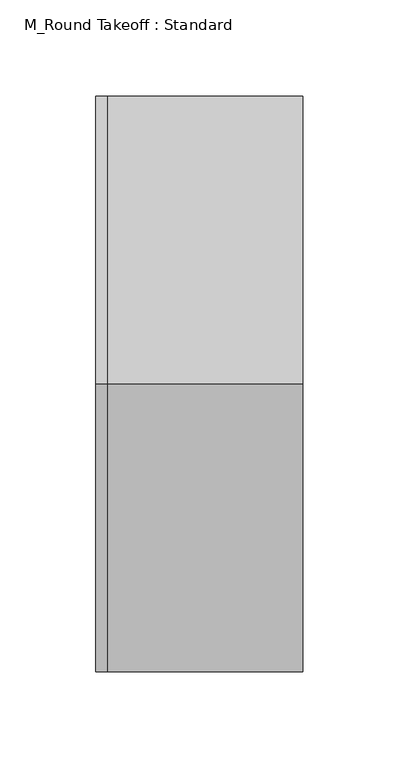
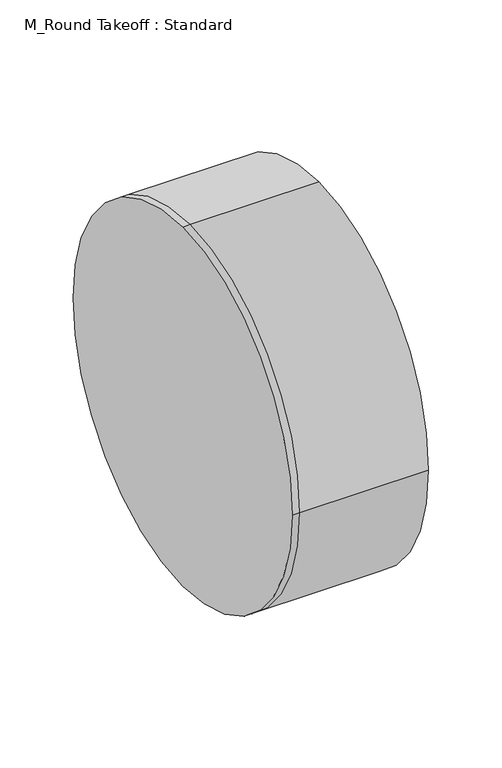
"""IFC4 building model written with IfcOpenShell, lengths in millimetres: duct fitting geometry, M_Round Takeoff : Standard."""

from ifc_helpers import new_model, si_unit, frame, origin, place, context, project, spatial, circle_curve, source, transform, mapped, element, save
from ifc_brep_helpers import plane_surface, cylinder_surface, advanced_brep


def m_round_takeoff_standard_603b0510(model_context):
    return source(origin(), model_context, "Body", "AdvancedBrep", [
        advanced_brep(
        [(101.6, 0.0, 150.0), (101.6, -150.0, 0.0), (101.6, 0.0, -150.0), (101.6, 150.0, 0.0), (0.0, 150.0, 0.0), (0.0, 0.0, 150.0), (0.0, 0.0, -150.0), (0.0, -150.0, 0.0), (-6.096, 0.0, 150.0), (-6.096, 150.0, 0.0), (-6.096, 0.0, -150.0), (-6.096, -150.0, 0.0)],
        [
            (0, 1, circle_curve(frame((101.6, 0.0, 0.0), z_axis=(1.0, 0.0, 0.0), x_axis=(0.0, 1.0, 0.0)), 150.0)),
            (1, 2, circle_curve(frame((101.6, 0.0, 0.0), z_axis=(1.0, 0.0, 0.0), x_axis=(0.0, 1.0, 0.0)), 150.0)),
            (2, 3, circle_curve(frame((101.6, 0.0, 0.0), z_axis=(1.0, 0.0, 0.0), x_axis=(0.0, 1.0, 0.0)), 150.0)),
            (3, 0, circle_curve(frame((101.6, 0.0, 0.0), z_axis=(1.0, 0.0, 0.0), x_axis=(0.0, 1.0, 0.0)), 150.0)),
            (3, 4),
            (4, 5, circle_curve(frame((0.0, 0.0, 0.0), z_axis=(1.0, 0.0, 0.0), x_axis=(0.0, 1.0, 0.0)), 150.0)),
            (5, 0),
            (2, 6),
            (6, 4, circle_curve(frame((0.0, 0.0, 0.0), z_axis=(1.0, 0.0, 0.0), x_axis=(0.0, 1.0, 0.0)), 150.0)),
            (1, 7),
            (7, 6, circle_curve(frame((0.0, 0.0, 0.0), z_axis=(1.0, 0.0, 0.0), x_axis=(0.0, 1.0, 0.0)), 150.0)),
            (5, 7, circle_curve(frame((0.0, 0.0, 0.0), z_axis=(1.0, 0.0, 0.0), x_axis=(0.0, 1.0, 0.0)), 150.0)),
            (8, 9, circle_curve(frame((-6.096, 0.0, 0.0), z_axis=(-1.0, 0.0, 0.0), x_axis=(0.0, 1.0, 0.0)), 150.0)),
            (9, 10, circle_curve(frame((-6.096, 0.0, 0.0), z_axis=(-1.0, 0.0, 0.0), x_axis=(0.0, 1.0, 0.0)), 150.0)),
            (10, 11, circle_curve(frame((-6.096, 0.0, 0.0), z_axis=(-1.0, 0.0, 0.0), x_axis=(0.0, 1.0, 0.0)), 150.0)),
            (11, 8, circle_curve(frame((-6.096, 0.0, 0.0), z_axis=(-1.0, 0.0, 0.0), x_axis=(0.0, 1.0, 0.0)), 150.0)),
            (8, 5),
            (4, 9),
            (6, 10),
            (7, 11),
        ],
        [
            plane_surface(frame((101.6, 0.0, 0.0), z_axis=(1.0, 0.0, 0.0), x_axis=(0.0, 0.0, 1.0))),
            cylinder_surface(frame((0.0, 0.0, 0.0), z_axis=(-1.0, 0.0, 0.0), x_axis=(0.0, 1.0, 0.0)), 150.0),
            plane_surface(frame((-6.096, 0.0, 0.0), z_axis=(-1.0, 0.0, 0.0), x_axis=(0.0, 0.0, 1.0))),
            cylinder_surface(frame((-6.096, 0.0, 0.0), z_axis=(-1.0, 0.0, 0.0), x_axis=(0.0, 1.0, 0.0)), 150.0),
        ],
        [
            (0, [[1, 2, 3, 4]]),
            (1, [[-4, 5, 6, 7]]),
            (1, [[-3, 8, 9, -5]]),
            (1, [[-2, 10, 11, -8]]),
            (1, [[-1, -7, 12, -10]]),
            (2, [[13, 14, 15, 16]]),
            (3, [[-13, 17, -6, 18]]),
            (3, [[-14, -18, -9, 19]]),
            (3, [[-15, -19, -11, 20]]),
            (3, [[-16, -20, -12, -17]]),
        ],
    ),
    ])


if __name__ == "__main__":
    model = new_model("IFC4")
    model_context = context("Model", 3, world=origin())
    ifc_project = project(units=[si_unit("LENGTHUNIT", "METRE", prefix="MILLI")], contexts=[model_context])
    site = spatial("IfcSite", under=ifc_project)
    building = spatial("IfcBuilding", under=site)
    placement = place(None, origin())
    m_round_takeoff_standard_shape = m_round_takeoff_standard_603b0510(model_context)
    element("IfcDuctFitting", 1, ObjectType="M_Round Takeoff : Standard", at=placement, inside=building, context=model_context, shape_type="MappedRepresentation", body=[
        mapped(m_round_takeoff_standard_shape, transform((0.0, 0.0, 0.0), x_axis=(1.0, 0.0, 0.0), y_axis=(0.0, 1.0, 0.0), z_axis=(0.0, 0.0, 1.0))),
    ])
    save(model, "model.ifc")
